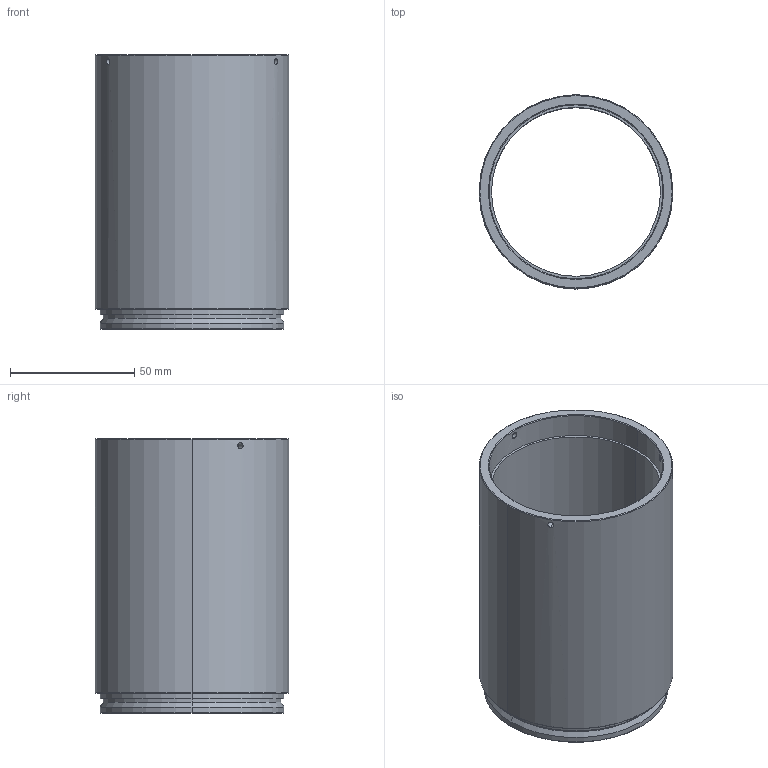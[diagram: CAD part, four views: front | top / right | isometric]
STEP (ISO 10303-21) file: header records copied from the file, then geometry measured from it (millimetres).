
FILE_DESCRIPTION (( 'STEP AP214' ), '1' );
FILE_NAME ('ML-13538-05-EXR-V70V74.STEP', '2026-03-02T01:34:41', ( '' ), ( '' ), 'SwSTEP 2.0', 'SolidWorks 2025', '' );
FILE_SCHEMA (( 'AUTOMOTIVE_DESIGN' ));
Length unit declared in the file: millimetre
Products named in the file (1): ML-13538-05-EXR-V70V74
Bounding box: 78 x 78 x 110.55 mm (x, y, z)
Volume: 120015.7 mm3; surface area: 53131.3 mm2
Topology: 1 solids, 1 shells, 35 faces, 76 edges, 46 vertices
Faces by surface type: cylinder 18, cone 12, plane 5
Entity records: 1195 total; most frequent: CARTESIAN_POINT 386, DIRECTION 170, ORIENTED_EDGE 152, EDGE_CURVE 76, AXIS2_PLACEMENT_3D 70, EDGE_LOOP 46, VERTEX_POINT 46, ADVANCED_FACE 35
